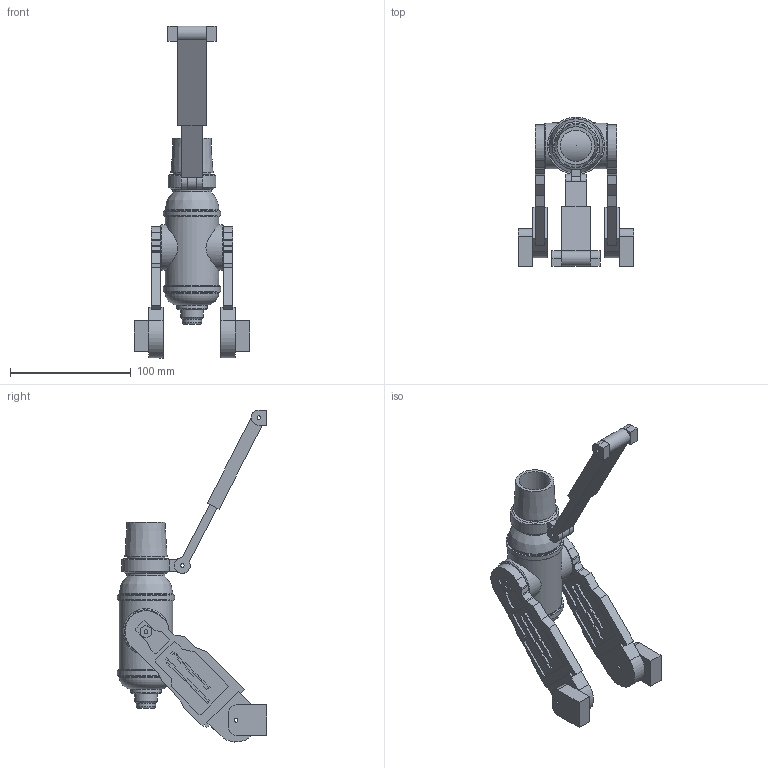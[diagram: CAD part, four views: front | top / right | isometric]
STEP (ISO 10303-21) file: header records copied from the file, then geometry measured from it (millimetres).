
FILE_DESCRIPTION(/* description */ (''),/* implementation_level */ '2;1');
FILE_NAME(/* name */ 'D:/Users/ianhu/Documents/Robots/In Progress/Solaris Booster.step',/* time_stamp */ '2020-05-06T17:31:21+09:00',/* author */ (''),/* organization */ (''),/* preprocessor_version */ 'ST-DEVELOPER v18.1',/* originating_system */ 'Autodesk Translation Framework v9.2.0.1227',/* authorisation */ '');
FILE_SCHEMA (('AUTOMOTIVE_DESIGN { 1 0 10303 214 3 1 1 }'));
Length unit declared in the file: millimetre
Products named in the file (8): Booster Work Again v1 v1 v1 v1 v1 v1 v1 v1 v2 v1 v1 v1 v1 v1 v1 v2 v1
 v1; Rocket Body; Slider Sheaf; Booster Slider; Booster Pivot; Rocket Side; Slider Mount; Rear Mount
Assembly tree (10 placements, depth 2):
  Booster Work Again v1 v1 v1 v1 v1 v1 v1 v1 v2 v1 v1 v1 v1 v1 v1 v2 v1
 v1
    Rocket Side  x2
    Rocket Body
    Slider Sheaf
    Booster Slider
    Booster Pivot
    Slider Mount  x2
    Rear Mount  x2
Bounding box: 96 x 123.96 x 275.34 mm (x, y, z)
Volume: 228401.6 mm3; surface area: 95721.2 mm2
Topology: 10 solids, 15 shells, 647 faces, 1780 edges, 1197 vertices
Faces by surface type: plane 563, cylinder 67, cone 6, sphere 6, torus 4, bspline 1
Full cylindrical faces by diameter (mm): 3 x6, 3.2 x4, 3.208 x5, 3.437 x1, 9.786 x4, 15.875 x1, 18.92 x1, 25.443 x1, 26 x1, 31.533 x2, 38.057 x2, 39.796 x1, 44.58 x3, 45.015 x4, 47.625 x2
Entity records: 12210 total; most frequent: CARTESIAN_POINT 2406, ORIENTED_EDGE 2000, DIRECTION 1921, EDGE_CURVE 1000, LINE 831, VECTOR 831, VERTEX_POINT 679, AXIS2_PLACEMENT_3D 545
